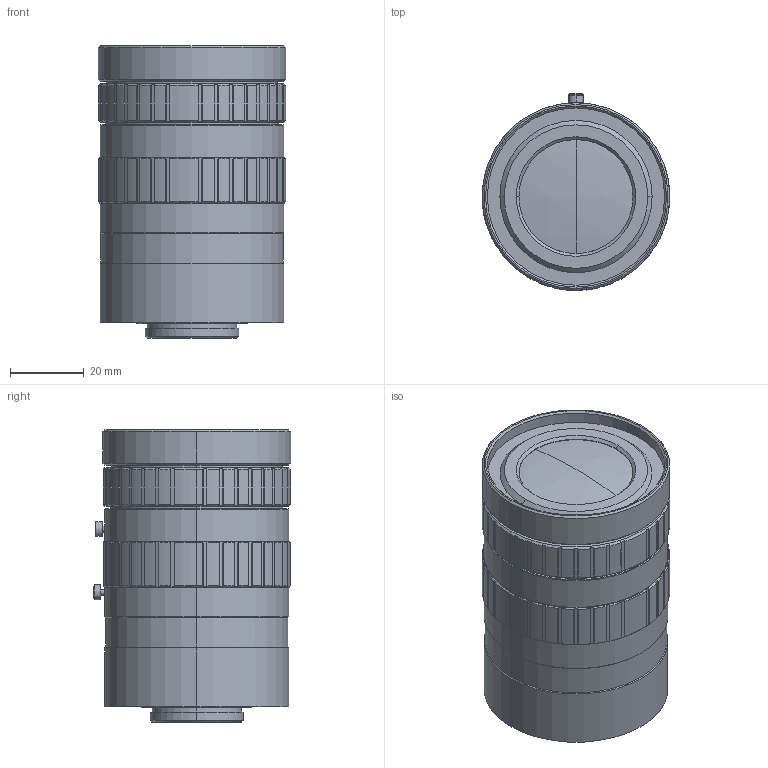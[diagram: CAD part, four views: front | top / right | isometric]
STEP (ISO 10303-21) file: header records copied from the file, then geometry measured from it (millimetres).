
FILE_DESCRIPTION (( 'STEP AP214' ), '1' );
FILE_NAME ('CF25HA-1_3D_Modeling.STEP', '2016-06-07T03:59:43', ( '富士フイルム株式会社' ), ( '富士フイルム株式会社' ), 'SwSTEP 2.0', 'SolidWorks 2014', '' );
FILE_SCHEMA (( 'AUTOMOTIVE_DESIGN' ));
Length unit declared in the file: millimetre
Products named in the file (1): CF25HA-1_3D_Modeling
Bounding box: 51 x 53.6 x 79.51 mm (x, y, z)
Volume: 144481.8 mm3; surface area: 18731.6 mm2
Topology: 1 solids, 1 shells, 346 faces, 950 edges, 623 vertices
Faces by surface type: cylinder 162, plane 146, cone 36, sphere 2
Entity records: 11504 total; most frequent: CARTESIAN_POINT 2840, ORIENTED_EDGE 1900, DIRECTION 1748, EDGE_CURVE 950, AXIS2_PLACEMENT_3D 711, VERTEX_POINT 623, CIRCLE 364, EDGE_LOOP 363
